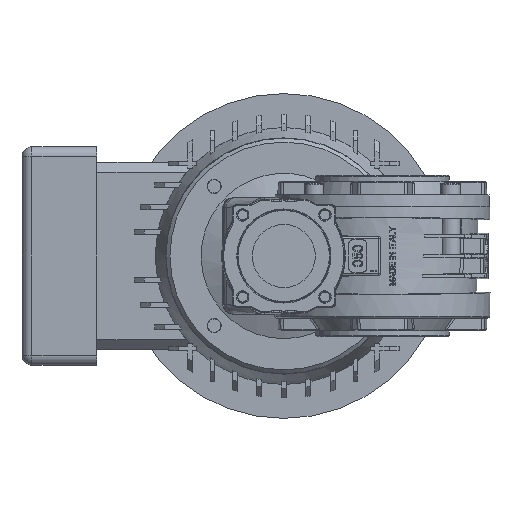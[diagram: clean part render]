
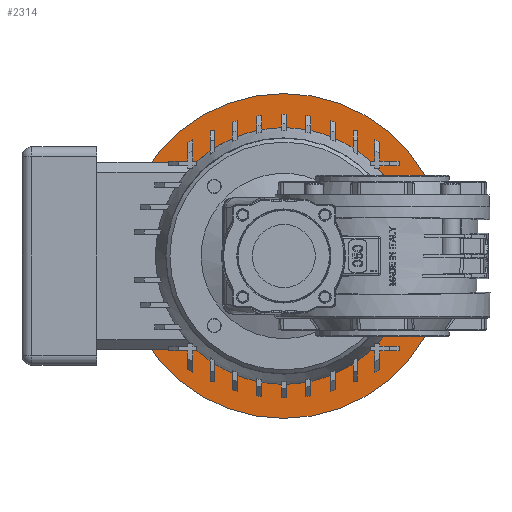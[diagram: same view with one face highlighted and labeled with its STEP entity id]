
A CAD part, left-side view. The second image highlights one B-rep face of the part: STEP entity #2314.
In plain terms, the highlighted planar face has unit normal (-1, 0, 0).
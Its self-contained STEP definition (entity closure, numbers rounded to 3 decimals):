
#2314 = ADVANCED_FACE( '', ( #5695, #5696 ), #5697, .F. );
#5695 = FACE_OUTER_BOUND( '', #12179, .T. );
#5696 = FACE_BOUND( '', #12180, .T. );
#5697 = PLANE( '', #12181 );
#12179 = EDGE_LOOP( '', ( #24078 ) );
#12180 = EDGE_LOOP( '', ( #24079 ) );
#12181 = AXIS2_PLACEMENT_3D( '', #24080, #24081, #24082 );
#24078 = ORIENTED_EDGE( '', *, *, #35106, .F. );
#24079 = ORIENTED_EDGE( '', *, *, #35107, .T. );
#24080 = CARTESIAN_POINT( '', ( 265.5, 50., 0. ) );
#24081 = DIRECTION( '', ( 1., 0., 0. ) );
#24082 = DIRECTION( '', ( 0., 0., 1. ) );
#35106 = EDGE_CURVE( '', #41545, #41545, #41546, .T. );
#35107 = EDGE_CURVE( '', #41547, #41547, #41548, .T. );
#41545 = VERTEX_POINT( '', #54635 );
#41546 = CIRCLE( '', #54636, 82.5 );
#41547 = VERTEX_POINT( '', #54637 );
#41548 = CIRCLE( '', #54638, 65.13 );
#54635 = CARTESIAN_POINT( '', ( 265.5, 50., 82.5 ) );
#54636 = AXIS2_PLACEMENT_3D( '', #66763, #66764, #66765 );
#54637 = CARTESIAN_POINT( '', ( 265.5, 115.13, 0. ) );
#54638 = AXIS2_PLACEMENT_3D( '', #66766, #66767, #66768 );
#66763 = CARTESIAN_POINT( '', ( 265.5, 50., 0. ) );
#66764 = DIRECTION( '', ( 1., 0., 0. ) );
#66765 = DIRECTION( '', ( 0., 0., 1. ) );
#66766 = CARTESIAN_POINT( '', ( 265.5, 50., 0. ) );
#66767 = DIRECTION( '', ( 1., 0., 0. ) );
#66768 = DIRECTION( '', ( 0., 1., 0. ) );
